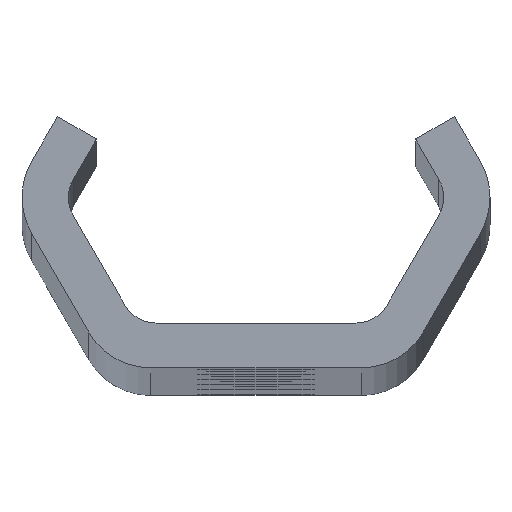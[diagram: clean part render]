
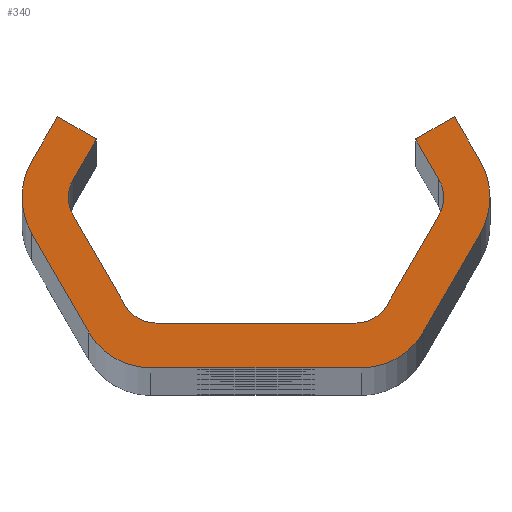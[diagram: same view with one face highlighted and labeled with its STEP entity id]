
A CAD part, top view. The second image highlights one B-rep face of the part: STEP entity #340.
In plain terms, the highlighted planar face has unit normal (0, 0, 1).
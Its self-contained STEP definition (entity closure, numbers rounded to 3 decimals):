
#340=ADVANCED_FACE('NONE',(#884),#885,.F.);
#884=FACE_OUTER_BOUND('',#2636,.T.);
#885=PLANE('',#2637);
#2636=EDGE_LOOP('',(#5298,#5299,#5300,#5301,#5302,#5303,#5304,#5305,#5306,#5307,#5308,#5309,#5310,#5311,#5312,#5313,#5314,#5315,#5316,#5317,#5318,#5319,#5320,#5321));
#2637=AXIS2_PLACEMENT_3D('',#5322,#5323,#5324);
#5298=ORIENTED_EDGE('',*,*,#7019,.T.);
#5299=ORIENTED_EDGE('',*,*,#7036,.T.);
#5300=ORIENTED_EDGE('',*,*,#7021,.T.);
#5301=ORIENTED_EDGE('',*,*,#7037,.T.);
#5302=ORIENTED_EDGE('',*,*,#7030,.F.);
#5303=ORIENTED_EDGE('',*,*,#7038,.T.);
#5304=ORIENTED_EDGE('',*,*,#6715,.T.);
#5305=ORIENTED_EDGE('',*,*,#7033,.F.);
#5306=ORIENTED_EDGE('',*,*,#6871,.F.);
#5307=ORIENTED_EDGE('',*,*,#6875,.F.);
#5308=ORIENTED_EDGE('',*,*,#6789,.T.);
#5309=ORIENTED_EDGE('',*,*,#7039,.T.);
#5310=ORIENTED_EDGE('',*,*,#6879,.F.);
#5311=ORIENTED_EDGE('',*,*,#7040,.T.);
#5312=ORIENTED_EDGE('',*,*,#6884,.F.);
#5313=ORIENTED_EDGE('',*,*,#7041,.T.);
#5314=ORIENTED_EDGE('',*,*,#7002,.T.);
#5315=ORIENTED_EDGE('',*,*,#7042,.T.);
#5316=ORIENTED_EDGE('',*,*,#6710,.T.);
#5317=ORIENTED_EDGE('',*,*,#7005,.T.);
#5318=ORIENTED_EDGE('',*,*,#7011,.T.);
#5319=ORIENTED_EDGE('',*,*,#7015,.T.);
#5320=ORIENTED_EDGE('',*,*,#7043,.T.);
#5321=ORIENTED_EDGE('',*,*,#6792,.T.);
#5322=CARTESIAN_POINT('',(0.0,0.0,880.0));
#5323=DIRECTION('',(0.0,0.0,-1.0));
#5324=DIRECTION('',(0.0,-1.0,0.0));
#6710=EDGE_CURVE('NONE',#7498,#7502,#7504,.T.);
#6715=EDGE_CURVE('NONE',#7507,#7511,#7513,.T.);
#6789=EDGE_CURVE('NONE',#7646,#7644,#7647,.T.);
#6792=EDGE_CURVE('NONE',#7650,#7651,#7652,.T.);
#6871=EDGE_CURVE('NONE',#7770,#7772,#7773,.T.);
#6875=EDGE_CURVE('NONE',#7646,#7770,#7777,.T.);
#6879=EDGE_CURVE('NONE',#7782,#7784,#7785,.T.);
#6884=EDGE_CURVE('NONE',#7791,#7793,#7794,.T.);
#7002=EDGE_CURVE('NONE',#8020,#8018,#8021,.T.);
#7005=EDGE_CURVE('NONE',#7502,#8024,#8025,.T.);
#7011=EDGE_CURVE('NONE',#8024,#8032,#8034,.T.);
#7015=EDGE_CURVE('NONE',#8032,#8038,#8040,.T.);
#7019=EDGE_CURVE('NONE',#7651,#8044,#8046,.T.);
#7021=EDGE_CURVE('NONE',#8048,#8049,#8050,.T.);
#7030=EDGE_CURVE('NONE',#8062,#8064,#8065,.T.);
#7033=EDGE_CURVE('NONE',#7772,#7511,#8068,.T.);
#7036=EDGE_CURVE('NONE',#8044,#8048,#8071,.T.);
#7037=EDGE_CURVE('NONE',#8049,#8064,#8072,.T.);
#7038=EDGE_CURVE('NONE',#8062,#7507,#8073,.T.);
#7039=EDGE_CURVE('NONE',#7644,#7784,#8074,.T.);
#7040=EDGE_CURVE('NONE',#7782,#7793,#8075,.T.);
#7041=EDGE_CURVE('NONE',#7791,#8020,#8076,.T.);
#7042=EDGE_CURVE('NONE',#8018,#7498,#8077,.T.);
#7043=EDGE_CURVE('NONE',#8038,#7650,#8078,.T.);
#7498=VERTEX_POINT('',#8668);
#7502=VERTEX_POINT('NONE',#8673);
#7504=CIRCLE('',#8676,2.0);
#7507=VERTEX_POINT('',#8679);
#7511=VERTEX_POINT('NONE',#8684);
#7513=CIRCLE('',#8687,4.0);
#7644=VERTEX_POINT('NONE',#9872);
#7646=VERTEX_POINT('NONE',#9875);
#7647=CIRCLE('',#9876,2.0);
#7650=VERTEX_POINT('NONE',#9880);
#7651=VERTEX_POINT('NONE',#9881);
#7652=CIRCLE('',#9882,4.0);
#7770=VERTEX_POINT('NONE',#10021);
#7772=VERTEX_POINT('NONE',#10024);
#7773=LINE('',#10025,#10026);
#7777=LINE('',#10032,#10033);
#7782=VERTEX_POINT('NONE',#10039);
#7784=VERTEX_POINT('NONE',#10042);
#7785=LINE('',#10043,#10044);
#7791=VERTEX_POINT('NONE',#10052);
#7793=VERTEX_POINT('NONE',#10055);
#7794=LINE('',#10056,#10057);
#8018=VERTEX_POINT('NONE',#10883);
#8020=VERTEX_POINT('NONE',#10886);
#8021=LINE('',#10887,#10888);
#8024=VERTEX_POINT('NONE',#10892);
#8025=LINE('',#10893,#10894);
#8032=VERTEX_POINT('NONE',#10904);
#8034=LINE('',#10907,#10908);
#8038=VERTEX_POINT('NONE',#10913);
#8040=LINE('',#10916,#10917);
#8044=VERTEX_POINT('NONE',#10922);
#8046=LINE('',#10925,#10926);
#8048=VERTEX_POINT('NONE',#10928);
#8049=VERTEX_POINT('NONE',#10929);
#8050=LINE('',#10930,#10931);
#8062=VERTEX_POINT('NONE',#10947);
#8064=VERTEX_POINT('NONE',#10950);
#8065=LINE('',#10951,#10952);
#8068=LINE('',#10956,#10957);
#8071=CIRCLE('',#10961,4.0);
#8072=CIRCLE('',#10962,4.0);
#8073=CIRCLE('',#10963,4.0);
#8074=CIRCLE('',#10964,2.0);
#8075=CIRCLE('',#10965,2.0);
#8076=CIRCLE('',#10966,2.0);
#8077=CIRCLE('',#10967,2.0);
#8078=CIRCLE('',#10968,4.0);
#8668=CARTESIAN_POINT('',(-10.455,0.,880.0));
#8673=CARTESIAN_POINT('',(-10.187,1.,880.0));
#8676=AXIS2_PLACEMENT_3D('',#12911,#12912,#12913);
#8679=CARTESIAN_POINT('',(13.032,0.,880.0));
#8684=CARTESIAN_POINT('',(12.496,2.,880.0));
#8687=AXIS2_PLACEMENT_3D('',#12919,#12920,#12921);
#9872=CARTESIAN_POINT('',(10.455,0.,880.0));
#9875=CARTESIAN_POINT('',(10.187,1.,880.0));
#9876=AXIS2_PLACEMENT_3D('',#12966,#12967,#12968);
#9880=CARTESIAN_POINT('',(-13.032,0.,880.0));
#9881=CARTESIAN_POINT('',(-12.496,-2.,880.0));
#9882=AXIS2_PLACEMENT_3D('',#12970,#12971,#12972);
#10021=CARTESIAN_POINT('',(8.888,3.25,880.0));
#10024=CARTESIAN_POINT('',(11.053,4.5,880.0));
#10025=CARTESIAN_POINT('',(8.888,3.25,880.0));
#10026=VECTOR('',#13106,1000.0);
#10032=CARTESIAN_POINT('',(10.764,0.,880.0));
#10033=VECTOR('',#13109,1000.0);
#10039=CARTESIAN_POINT('',(7.3,-6.,880.0));
#10042=CARTESIAN_POINT('',(10.187,-1.,880.0));
#10043=CARTESIAN_POINT('',(6.723,-7.0,880.0));
#10044=VECTOR('',#13112,1000.0);
#10052=CARTESIAN_POINT('',(-5.568,-7.0,880.0));
#10055=CARTESIAN_POINT('',(5.568,-7.0,880.0));
#10056=CARTESIAN_POINT('',(-6.723,-7.0,880.0));
#10057=VECTOR('',#13116,1000.0);
#10883=CARTESIAN_POINT('',(-10.187,-1.,880.0));
#10886=CARTESIAN_POINT('',(-7.3,-6.,880.0));
#10887=CARTESIAN_POINT('',(-6.723,-7.0,880.0));
#10888=VECTOR('',#13225,1000.0);
#10892=CARTESIAN_POINT('',(-8.888,3.25,880.0));
#10893=CARTESIAN_POINT('',(-10.764,0.0,880.0));
#10894=VECTOR('',#13227,1000.0);
#10904=CARTESIAN_POINT('',(-11.053,4.5,880.0));
#10907=CARTESIAN_POINT('',(-8.888,3.25,880.0));
#10908=VECTOR('',#13232,1000.0);
#10913=CARTESIAN_POINT('',(-12.496,2.0,880.0));
#10916=CARTESIAN_POINT('',(-11.053,4.5,880.0));
#10917=VECTOR('',#13235,1000.0);
#10922=CARTESIAN_POINT('',(-9.321,-7.5,880.0));
#10925=CARTESIAN_POINT('',(-13.651,0.0,880.0));
#10926=VECTOR('',#13238,1000.0);
#10928=CARTESIAN_POINT('',(-5.857,-9.5,880.0));
#10929=CARTESIAN_POINT('',(5.857,-9.5,880.0));
#10930=CARTESIAN_POINT('',(-8.166,-9.5,880.0));
#10931=VECTOR('',#13239,1000.0);
#10947=CARTESIAN_POINT('',(12.496,-2.,880.0));
#10950=CARTESIAN_POINT('',(9.321,-7.5,880.0));
#10951=CARTESIAN_POINT('',(13.651,0.,880.0));
#10952=VECTOR('',#13251,1000.0);
#10956=CARTESIAN_POINT('',(11.053,4.5,880.0));
#10957=VECTOR('',#13253,1000.0);
#10961=AXIS2_PLACEMENT_3D('',#13255,#13256,#13257);
#10962=AXIS2_PLACEMENT_3D('',#13258,#13259,#13260);
#10963=AXIS2_PLACEMENT_3D('',#13261,#13262,#13263);
#10964=AXIS2_PLACEMENT_3D('',#13264,#13265,#13266);
#10965=AXIS2_PLACEMENT_3D('',#13267,#13268,#13269);
#10966=AXIS2_PLACEMENT_3D('',#13270,#13271,#13272);
#10967=AXIS2_PLACEMENT_3D('',#13273,#13274,#13275);
#10968=AXIS2_PLACEMENT_3D('',#13276,#13277,#13278);
#12911=CARTESIAN_POINT('',(-8.455,0.,880.0));
#12912=DIRECTION('',(0.0,0.0,-1.0));
#12913=DIRECTION('',(-1.0,0.0,0.0));
#12919=CARTESIAN_POINT('',(9.032,0.,880.0));
#12920=DIRECTION('',(0.0,0.0,1.0));
#12921=DIRECTION('',(-1.0,0.0,0.0));
#12966=CARTESIAN_POINT('',(8.455,0.,880.0));
#12967=DIRECTION('',(0.0,0.0,-1.0));
#12968=DIRECTION('',(-1.0,0.0,0.0));
#12970=CARTESIAN_POINT('',(-9.032,0.,880.0));
#12971=DIRECTION('',(0.0,0.0,1.0));
#12972=DIRECTION('',(-1.0,0.0,0.0));
#13106=DIRECTION('',(0.866,0.5,0.0));
#13109=DIRECTION('',(-0.5,0.866,0.0));
#13112=DIRECTION('',(0.5,0.866,0.0));
#13116=DIRECTION('',(1.0,0.,0.0));
#13225=DIRECTION('',(-0.5,0.866,0.0));
#13227=DIRECTION('',(0.5,0.866,0.0));
#13232=DIRECTION('',(-0.866,0.5,0.0));
#13235=DIRECTION('',(-0.5,-0.866,0.0));
#13238=DIRECTION('',(0.5,-0.866,0.0));
#13239=DIRECTION('',(1.0,0.,0.0));
#13251=DIRECTION('',(-0.5,-0.866,0.0));
#13253=DIRECTION('',(0.5,-0.866,0.0));
#13255=CARTESIAN_POINT('',(-5.857,-5.5,880.0));
#13256=DIRECTION('',(0.0,0.0,1.0));
#13257=DIRECTION('',(-1.0,0.,0.0));
#13258=CARTESIAN_POINT('',(5.857,-5.5,880.0));
#13259=DIRECTION('',(0.0,0.0,1.0));
#13260=DIRECTION('',(-1.0,0.,0.0));
#13261=CARTESIAN_POINT('',(9.032,0.,880.0));
#13262=DIRECTION('',(0.0,0.0,1.0));
#13263=DIRECTION('',(-1.0,0.0,0.0));
#13264=CARTESIAN_POINT('',(8.455,0.,880.0));
#13265=DIRECTION('',(0.0,0.0,-1.0));
#13266=DIRECTION('',(-1.0,0.0,0.0));
#13267=CARTESIAN_POINT('',(5.568,-5.0,880.0));
#13268=DIRECTION('',(0.0,0.0,-1.0));
#13269=DIRECTION('',(-1.0,0.0,0.0));
#13270=CARTESIAN_POINT('',(-5.568,-5.0,880.0));
#13271=DIRECTION('',(0.0,0.0,-1.0));
#13272=DIRECTION('',(-1.0,0.0,0.0));
#13273=CARTESIAN_POINT('',(-8.455,0.,880.0));
#13274=DIRECTION('',(0.0,0.0,-1.0));
#13275=DIRECTION('',(-1.0,0.0,0.0));
#13276=CARTESIAN_POINT('',(-9.032,0.,880.0));
#13277=DIRECTION('',(0.0,0.0,1.0));
#13278=DIRECTION('',(-1.0,0.,0.0));
